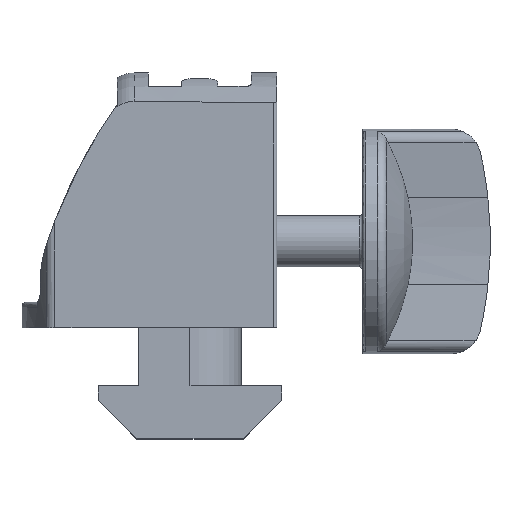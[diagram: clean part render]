
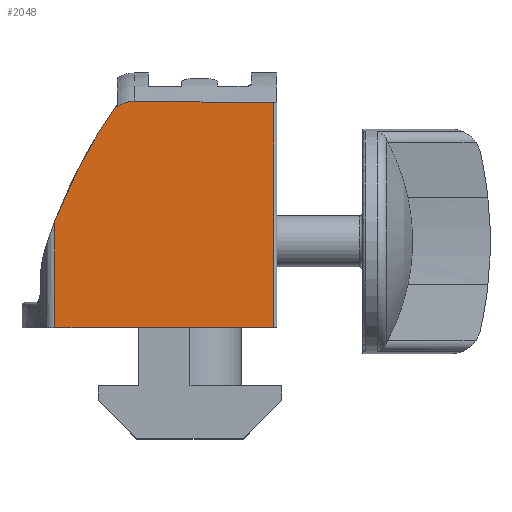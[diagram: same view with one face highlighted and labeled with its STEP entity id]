
A CAD part, top view. The second image highlights one B-rep face of the part: STEP entity #2048.
In plain terms, the highlighted planar face has unit normal (-0.018, 0, 1).
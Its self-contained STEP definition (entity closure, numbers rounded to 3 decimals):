
#68=B_SPLINE_CURVE_WITH_KNOTS('',3,(#3267,#3268,#3269,#3270),
 .UNSPECIFIED.,.F.,.F.,(4,4),(0.,0.002),
 .UNSPECIFIED.);
#249=LINE('',#3259,#414);
#250=LINE('',#3261,#415);
#251=LINE('',#3263,#416);
#414=VECTOR('',#2552,1000.);
#415=VECTOR('',#2553,1000.);
#416=VECTOR('',#2554,1000.);
#717=ORIENTED_EDGE('',*,*,#1262,.F.);
#718=ORIENTED_EDGE('',*,*,#1263,.F.);
#719=ORIENTED_EDGE('',*,*,#1264,.T.);
#720=ORIENTED_EDGE('',*,*,#1265,.T.);
#721=ORIENTED_EDGE('',*,*,#1266,.F.);
#722=ORIENTED_EDGE('',*,*,#1267,.T.);
#723=ORIENTED_EDGE('',*,*,#1268,.T.);
#1262=EDGE_CURVE('',#1547,#1548,#1690,.T.);
#1263=EDGE_CURVE('',#1549,#1547,#1691,.T.);
#1264=EDGE_CURVE('',#1549,#1550,#249,.T.);
#1265=EDGE_CURVE('',#1550,#1551,#250,.T.);
#1266=EDGE_CURVE('',#1552,#1551,#251,.T.);
#1267=EDGE_CURVE('',#1552,#1553,#1692,.F.);
#1268=EDGE_CURVE('',#1553,#1548,#68,.T.);
#1547=VERTEX_POINT('',#3255);
#1548=VERTEX_POINT('',#3256);
#1549=VERTEX_POINT('',#3258);
#1550=VERTEX_POINT('',#3260);
#1551=VERTEX_POINT('',#3262);
#1552=VERTEX_POINT('',#3264);
#1553=VERTEX_POINT('',#3266);
#1690=ELLIPSE('',#2227,920.468,16.064);
#1691=ELLIPSE('',#2228,51.332,51.324);
#1692=ELLIPSE('',#2229,947.818,16.542);
#1742=EDGE_LOOP('',(#717,#718,#719,#720,#721,#722,#723));
#1870=FACE_BOUND('',#1742,.T.);
#1968=PLANE('',#2226);
#2048=ADVANCED_FACE('',(#1870),#1968,.F.);
#2226=AXIS2_PLACEMENT_3D('',#3253,#2546,#2547);
#2227=AXIS2_PLACEMENT_3D('',#3254,#2548,#2549);
#2228=AXIS2_PLACEMENT_3D('',#3257,#2550,#2551);
#2229=AXIS2_PLACEMENT_3D('',#3265,#2555,#2556);
#2546=DIRECTION('',(0.017,0.,-1.));
#2547=DIRECTION('',(-1.,0.,-0.017));
#2548=DIRECTION('',(0.017,0.,-1.));
#2549=DIRECTION('',(1.,0.,0.017));
#2550=DIRECTION('',(0.017,0.,-1.));
#2551=DIRECTION('',(-1.,0.,-0.017));
#2552=DIRECTION('',(0.,-1.,0.));
#2553=DIRECTION('',(1.,0.,0.017));
#2554=DIRECTION('',(0.,-1.,0.));
#2555=DIRECTION('',(0.017,0.,-1.));
#2556=DIRECTION('',(-1.,0.,-0.017));
#3253=CARTESIAN_POINT('',(3.276,27.,9.126));
#3254=CARTESIAN_POINT('',(-519.555,8.458,0.));
#3255=CARTESIAN_POINT('',(9.223,21.606,9.23));
#3256=CARTESIAN_POINT('',(9.4,21.604,9.233));
#3257=CARTESIAN_POINT('',(51.192,-7.935,9.962));
#3258=CARTESIAN_POINT('',(3.276,10.455,9.126));
#3259=CARTESIAN_POINT('',(3.276,27.,9.126));
#3260=CARTESIAN_POINT('',(3.276,0.,9.126));
#3261=CARTESIAN_POINT('',(3.276,0.,9.126));
#3262=CARTESIAN_POINT('',(24.7,0.,9.5));
#3263=CARTESIAN_POINT('',(24.7,27.,9.5));
#3264=CARTESIAN_POINT('',(24.7,22.,9.5));
#3265=CARTESIAN_POINT('',(-519.555,8.458,0.));
#3266=CARTESIAN_POINT('',(11.024,22.164,9.261));
#3267=CARTESIAN_POINT('',(11.024,22.164,9.261));
#3268=CARTESIAN_POINT('',(10.434,22.171,9.251));
#3269=CARTESIAN_POINT('',(9.865,21.965,9.241));
#3270=CARTESIAN_POINT('',(9.4,21.604,9.233));
